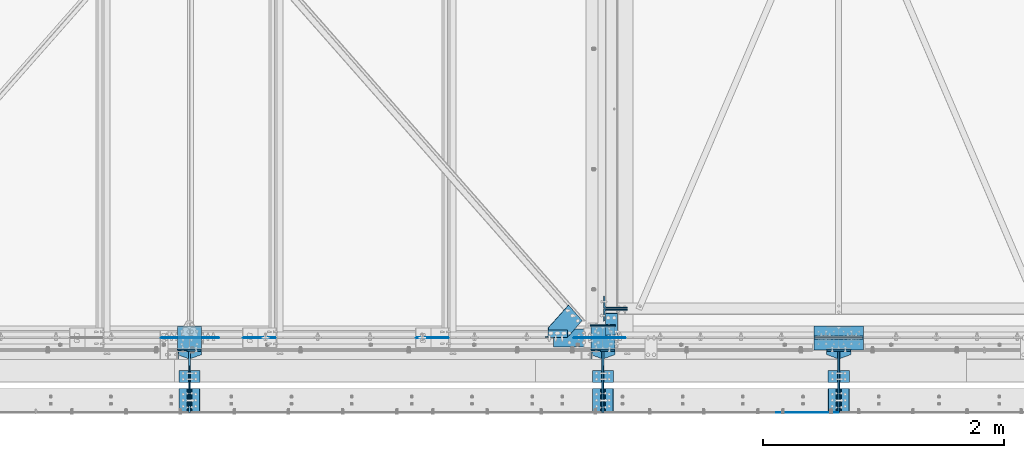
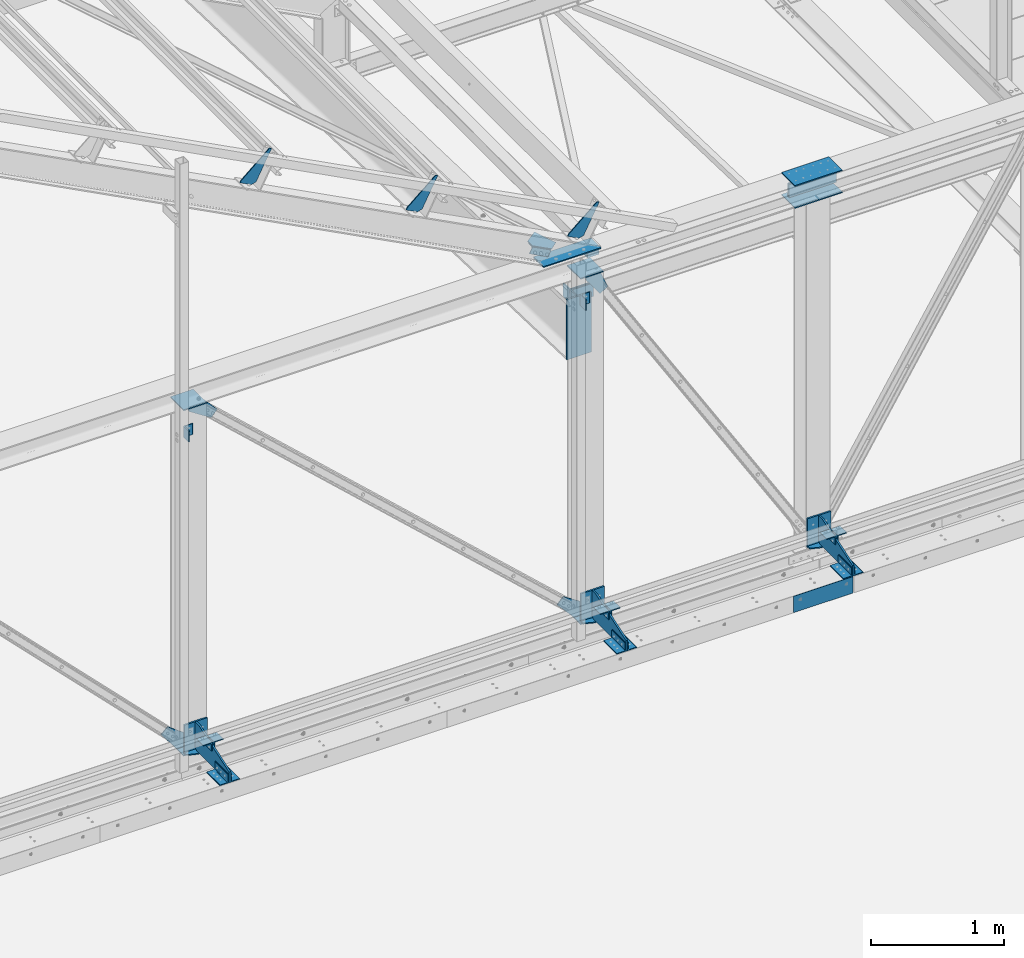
# One storey, part 84 of 362: 43 beams, 3 members, 34 elements without a shape of their own.
"""IFC2X3 building model written with IfcOpenShell, lengths in millimetres."""

from ifc_helpers import new_model, si_unit, frame, origin_with_axes, origin_2d_with_axis, place, context, subcontext, project, spatial, polyline, rectangle, l_section, outline, extrude, clip, halfspace, material, type_object, element, aggregate, save


model = new_model("IFC2X3")

# Units and contexts
model_context = context("Model", 3, precision=1e-05, world=origin_with_axes())
body_context = subcontext(model_context, "Body", "Model", "MODEL_VIEW")
ifc_project = project(units=[si_unit("LENGTHUNIT", "METRE", prefix="MILLI"), si_unit("AREAUNIT", "SQUARE_METRE"), si_unit("VOLUMEUNIT", "CUBIC_METRE"), si_unit("MASSUNIT", "GRAM", prefix="KILO"), si_unit("TIMEUNIT", "SECOND"), si_unit("PLANEANGLEUNIT", "RADIAN"), si_unit("SOLIDANGLEUNIT", "STERADIAN"), si_unit("THERMODYNAMICTEMPERATUREUNIT", "DEGREE_CELSIUS"), si_unit("LUMINOUSINTENSITYUNIT", "LUMEN")], contexts=[model_context])

# Site, building, storey
site_placement = place(None, origin_with_axes())
site = spatial("IfcSite", under=ifc_project, at=site_placement, Name="Undefined", CompositionType="ELEMENT")
building_placement = place(site_placement, origin_with_axes())
building = spatial("IfcBuilding", under=site, at=building_placement, Name="Undefined", CompositionType="ELEMENT")
storey_placement = place(building_placement, origin_with_axes())
storey = spatial("IfcBuildingStorey", under=building, at=storey_placement, Name="Undefined", CompositionType="ELEMENT", Elevation=0.0)

# Assembly, beam
assembly_1_placement = place(storey_placement, origin_with_axes())
assembly_1 = element("IfcElementAssembly", 1, at=assembly_1_placement, inside=storey, Name="MONTANT", AssemblyPlace="NOTDEFINED", PredefinedType="NOTDEFINED")
ifc_material = material(Name="Undefined/S235-E24")
beam_type_1 = type_object("IfcBeamType", Name="TOLE8*138", PredefinedType="NOTDEFINED")
beam_1_placement = place(assembly_1_placement, frame((16014.9968916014, 0.0, 5200.00069263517), z_axis=(0.0, -1.0, 0.0), x_axis=(1.0, 0.0, 0.0)))
beam_1 = element("IfcBeam", 2, at=beam_1_placement, type_object=beam_type_1, material=ifc_material, Name="GOUSSET", ObjectType="TOLE8*138", context=body_context, shape_type="SweptSolid", body=[
    extrude(outline(polyline([(0.0, 0.0), (76.7515563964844, -3.31884703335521e-11), (96.7515747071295, 19.9999999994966), (96.7516021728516, 100.0), (-82.7663345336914, 231.440887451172), (-139.650405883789, 175.189651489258), (0.0, 0.0)])), frame((0.0, 0.0, -4.0), z_axis=(0.0, 0.0, 1.0), x_axis=(1.0, 0.0, 0.0)), (0.0, 0.0, 1.0), 8.0),
])

assembly_2_placement = place(storey_placement, origin_with_axes())
assembly_2 = element("IfcElementAssembly", 3, at=assembly_2_placement, inside=storey, Name="SUPPORT", AssemblyPlace="NOTDEFINED", PredefinedType="NOTDEFINED")
beam_type_2 = type_object("IfcBeamType", Name="PL150*4", PredefinedType="NOTDEFINED")
beam_2_placement = place(assembly_2_placement, frame((20989.9999820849, -622.0, 5154.99824538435), z_axis=(0.0, 0.0, 1.0), x_axis=(1.0, 0.0, 0.0)))
beam_2 = element("IfcBeam", 4, at=beam_2_placement, type_object=beam_type_2, material=ifc_material, Name="SUPPORT", ObjectType="PL150*4", context=body_context, shape_type="SweptSolid", body=[
    extrude(rectangle(XDim=4.0, YDim=150.0, at=origin_2d_with_axis()), frame((515.000011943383, 0.0, 0.0), z_axis=(-1.0, 0.0, 0.0), x_axis=(0.0, -1.0, 0.0)), (0.0, 0.0, 1.0), 515.0),
])
aggregate(assembly_2, [beam_2])

assembly_3_placement = place(storey_placement, origin_with_axes())
assembly_3 = element("IfcElementAssembly", 5, at=assembly_3_placement, inside=storey, Name="MONTANT", AssemblyPlace="NOTDEFINED", PredefinedType="NOTDEFINED")
beam_type_3 = type_object("IfcBeamType", Name="PL10*200", PredefinedType="NOTDEFINED")
beam_3_placement = place(assembly_3_placement, frame((21304.9998196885, 0.0, 8354.99960117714), z_axis=(0.0, 1.0, 0.0), x_axis=(0.999999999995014, 0.0, -3.15800000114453e-06)))
beam_3 = element("IfcBeam", 6, at=beam_3_placement, type_object=beam_type_3, material=ifc_material, Name="PLATINE", ObjectType="PL10*200", context=body_context, shape_type="SweptSolid", body=[
    extrude(rectangle(XDim=10.0, YDim=200.0, at=origin_2d_with_axis()), frame((410.0, 0.0, 0.0), z_axis=(-1.0, 0.0, 0.0), x_axis=(0.0, -1.0, 0.0)), (0.0, 0.0, 1.0), 410.0),
])
aggregate(assembly_3, [beam_3])

assembly_4_placement = place(storey_placement, origin_with_axes())
assembly_4 = element("IfcElementAssembly", 7, at=assembly_4_placement, inside=storey, AssemblyPlace="NOTDEFINED", PredefinedType="NOTDEFINED")
beam_4_placement = place(assembly_4_placement, frame((21304.9998196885, 0.0, 8555.00039882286), z_axis=(0.0, 1.0, 0.0), x_axis=(0.999999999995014, 0.0, 3.15800000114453e-06)))
beam_4 = element("IfcBeam", 8, at=beam_4_placement, type_object=beam_type_3, material=ifc_material, Name="ECLISSE", ObjectType="PL10*200", context=body_context, shape_type="SweptSolid", body=[
    extrude(rectangle(XDim=10.0, YDim=200.0, at=origin_2d_with_axis()), frame((410.0, 0.0, 0.0), z_axis=(-1.0, 0.0, 0.0), x_axis=(0.0, -1.0, 0.0)), (0.0, 0.0, 1.0), 410.0),
])
aggregate(assembly_4, [beam_4])

# Assembly, beams
assembly_5_placement = place(storey_placement, origin_with_axes())
assembly_5 = element("IfcElementAssembly", 9, at=assembly_5_placement, inside=storey, Name="MONTANT", AssemblyPlace="NOTDEFINED", PredefinedType="NOTDEFINED")
beam_5_placement = place(assembly_5_placement, frame((19449.9982817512, 0.0, 8354.99930736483), z_axis=(0.0, 1.0, 0.0), x_axis=(1.0, 0.0, 0.0)))
beam_5 = element("IfcBeam", 10, at=beam_5_placement, type_object=beam_type_3, material=ifc_material, Name="PLATINE", ObjectType="PL10*200", context=body_context, shape_type="SweptSolid", body=[
    extrude(rectangle(XDim=10.0, YDim=200.0, at=origin_2d_with_axis()), frame((200.003108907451, 1.3235095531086e-21, 0.0), z_axis=(-1.0, 0.0, 0.0), x_axis=(0.0, -1.0, 0.0)), (0.0, 0.0, 1.0), 200.0),
])
beam_6_placement = place(assembly_5_placement, frame((19449.9982812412, 0.0, 5195.00069263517), z_axis=(0.0, 1.0, 0.0), x_axis=(1.0, 0.0, 0.0)))
beam_6 = element("IfcBeam", 11, at=beam_6_placement, type_object=beam_type_3, material=ifc_material, Name="PLATINE", ObjectType="PL10*200", context=body_context, shape_type="SweptSolid", body=[
    extrude(rectangle(XDim=10.0, YDim=200.0, at=origin_2d_with_axis()), frame((200.003108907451, 1.3235095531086e-21, 0.0), z_axis=(-1.0, 0.0, 0.0), x_axis=(0.0, -1.0, 0.0)), (0.0, 0.0, 1.0), 200.0),
])

# Beam
beam_7_placement = place(assembly_1_placement, frame((16014.9968918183, 0.0, 8354.99930736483), z_axis=(0.0, 1.0, 0.0), x_axis=(1.0, 0.0, 0.0)))
beam_7 = element("IfcBeam", 12, at=beam_7_placement, type_object=beam_type_3, material=ifc_material, Name="PLATINE", ObjectType="PL10*200", context=body_context, shape_type="SweptSolid", body=[
    extrude(rectangle(XDim=10.0, YDim=200.0, at=origin_2d_with_axis()), frame((200.003108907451, 1.3235095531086e-21, 0.0), z_axis=(-1.0, 0.0, 0.0), x_axis=(0.0, -1.0, 0.0)), (0.0, 0.0, 1.0), 200.0),
])

beam_8_placement = place(assembly_1_placement, frame((16014.9968913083, 0.0, 5195.00069263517), z_axis=(0.0, 1.0, 0.0), x_axis=(1.0, 0.0, 0.0)))
beam_8 = element("IfcBeam", 13, at=beam_8_placement, type_object=beam_type_3, material=ifc_material, Name="PLATINE", ObjectType="PL10*200", context=body_context, shape_type="SweptSolid", body=[
    extrude(rectangle(XDim=10.0, YDim=200.0, at=origin_2d_with_axis()), frame((200.003108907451, 1.3235095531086e-21, 0.0), z_axis=(-1.0, 0.0, 0.0), x_axis=(0.0, -1.0, 0.0)), (0.0, 0.0, 1.0), 200.0),
])

# Assembly, beam
assembly_6_placement = place(storey_placement, origin_with_axes())
assembly_6 = element("IfcElementAssembly", 14, at=assembly_6_placement, inside=storey, AssemblyPlace="NOTDEFINED", PredefinedType="NOTDEFINED")
beam_type_4 = type_object("IfcBeamType", Name="L80*8", PredefinedType="NOTDEFINED")
beam_9_placement = place(assembly_6_placement, frame((21557.4921660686, -270.0, 5409.99824538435), z_axis=(0.0, 0.0, -1.0), x_axis=(0.0, -1.0, 0.0)))
beam_9 = element("IfcBeam", 15, at=beam_9_placement, type_object=beam_type_4, material=ifc_material, Name="ATTACHE", ObjectType="L80*8", context=body_context, shape_type="SweptSolid", body=[
    extrude(l_section(Depth=80.0, Width=80.0, Thickness=8.0, FilletRadius=10.0, EdgeRadius=5.0, at=origin_2d_with_axis()), frame((99.9999999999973, -1.63709046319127e-11, 7.73070496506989e-12), z_axis=(-1.0, 0.0, 0.0), x_axis=(0.0, -1.0, 0.0)), (0.0, 0.0, 1.0), 100.0),
])
aggregate(assembly_6, [beam_9])

assembly_7_placement = place(storey_placement, origin_with_axes())
assembly_7 = element("IfcElementAssembly", 16, at=assembly_7_placement, inside=storey, AssemblyPlace="NOTDEFINED", PredefinedType="NOTDEFINED")
beam_10_placement = place(assembly_7_placement, frame((21462.4999984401, -370.0, 5409.99824538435), z_axis=(0.0, 0.0, -1.0), x_axis=(0.0, 1.0, 0.0)))
beam_10 = element("IfcBeam", 17, at=beam_10_placement, type_object=beam_type_4, material=ifc_material, Name="ATTACHE", ObjectType="L80*8", context=body_context, shape_type="SweptSolid", body=[
    extrude(l_section(Depth=80.0, Width=80.0, Thickness=8.0, FilletRadius=10.0, EdgeRadius=5.0, at=origin_2d_with_axis()), frame((99.9999999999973, -1.63709046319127e-11, 7.73070496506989e-12), z_axis=(-1.0, 0.0, 0.0), x_axis=(0.0, -1.0, 0.0)), (0.0, 0.0, 1.0), 100.0),
])
aggregate(assembly_7, [beam_10])

assembly_8_placement = place(storey_placement, origin_with_axes())
assembly_8 = element("IfcElementAssembly", 18, at=assembly_8_placement, inside=storey, AssemblyPlace="NOTDEFINED", PredefinedType="NOTDEFINED")
beam_11_placement = place(assembly_8_placement, frame((19597.4921676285, -270.0, 5409.99824538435), z_axis=(0.0, 0.0, -1.0), x_axis=(0.0, -1.0, 0.0)))
beam_11 = element("IfcBeam", 19, at=beam_11_placement, type_object=beam_type_4, material=ifc_material, Name="ATTACHE", ObjectType="L80*8", context=body_context, shape_type="SweptSolid", body=[
    extrude(l_section(Depth=80.0, Width=80.0, Thickness=8.0, FilletRadius=10.0, EdgeRadius=5.0, at=origin_2d_with_axis()), frame((99.9999999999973, -1.63709046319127e-11, 7.73070496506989e-12), z_axis=(-1.0, 0.0, 0.0), x_axis=(0.0, -1.0, 0.0)), (0.0, 0.0, 1.0), 100.0),
])
aggregate(assembly_8, [beam_11])

assembly_9_placement = place(storey_placement, origin_with_axes())
assembly_9 = element("IfcElementAssembly", 20, at=assembly_9_placement, inside=storey, AssemblyPlace="NOTDEFINED", PredefinedType="NOTDEFINED")
beam_12_placement = place(assembly_9_placement, frame((19502.5, -370.0, 5409.99824538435), z_axis=(0.0, 0.0, -1.0), x_axis=(0.0, 1.0, 0.0)))
beam_12 = element("IfcBeam", 21, at=beam_12_placement, type_object=beam_type_4, material=ifc_material, Name="ATTACHE", ObjectType="L80*8", context=body_context, shape_type="SweptSolid", body=[
    extrude(l_section(Depth=80.0, Width=80.0, Thickness=8.0, FilletRadius=10.0, EdgeRadius=5.0, at=origin_2d_with_axis()), frame((99.9999999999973, -1.63709046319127e-11, 7.73070496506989e-12), z_axis=(-1.0, 0.0, 0.0), x_axis=(0.0, -1.0, 0.0)), (0.0, 0.0, 1.0), 100.0),
])
aggregate(assembly_9, [beam_12])

assembly_10_placement = place(storey_placement, origin_with_axes())
assembly_10 = element("IfcElementAssembly", 22, at=assembly_10_placement, inside=storey, AssemblyPlace="NOTDEFINED", PredefinedType="NOTDEFINED")
beam_13_placement = place(assembly_10_placement, frame((16162.490751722, -270.0, 5409.99824538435), z_axis=(0.0, 0.0, -1.0), x_axis=(0.0, -1.0, 0.0)))
beam_13 = element("IfcBeam", 23, at=beam_13_placement, type_object=beam_type_4, material=ifc_material, Name="ATTACHE", ObjectType="L80*8", context=body_context, shape_type="SweptSolid", body=[
    extrude(l_section(Depth=80.0, Width=80.0, Thickness=8.0, FilletRadius=10.0, EdgeRadius=5.0, at=origin_2d_with_axis()), frame((99.9999999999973, -1.63709046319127e-11, 7.73070496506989e-12), z_axis=(-1.0, 0.0, 0.0), x_axis=(0.0, -1.0, 0.0)), (0.0, 0.0, 1.0), 100.0),
])
aggregate(assembly_10, [beam_13])

assembly_11_placement = place(storey_placement, origin_with_axes())
assembly_11 = element("IfcElementAssembly", 24, at=assembly_11_placement, inside=storey, AssemblyPlace="NOTDEFINED", PredefinedType="NOTDEFINED")
beam_14_placement = place(assembly_11_placement, frame((16067.4985840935, -370.0, 5409.99824538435), z_axis=(0.0, 0.0, -1.0), x_axis=(0.0, 1.0, 0.0)))
beam_14 = element("IfcBeam", 25, at=beam_14_placement, type_object=beam_type_4, material=ifc_material, Name="ATTACHE", ObjectType="L80*8", context=body_context, shape_type="SweptSolid", body=[
    extrude(l_section(Depth=80.0, Width=80.0, Thickness=8.0, FilletRadius=10.0, EdgeRadius=5.0, at=origin_2d_with_axis()), frame((99.9999999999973, -1.63709046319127e-11, 7.73070496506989e-12), z_axis=(-1.0, 0.0, 0.0), x_axis=(0.0, -1.0, 0.0)), (0.0, 0.0, 1.0), 100.0),
])
aggregate(assembly_11, [beam_14])

assembly_12_placement = place(storey_placement, origin_with_axes())
assembly_12 = element("IfcElementAssembly", 26, at=assembly_12_placement, inside=storey, AssemblyPlace="NOTDEFINED", PredefinedType="NOTDEFINED")
beam_15_placement = place(assembly_12_placement, frame((21557.4921660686, -620.0, 5269.99824538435), z_axis=(0.0, 0.0, 1.0), x_axis=(0.0, 1.0, 0.0)))
beam_15 = element("IfcBeam", 27, at=beam_15_placement, type_object=beam_type_4, material=ifc_material, Name="ATTACHE", ObjectType="L80*8", context=body_context, shape_type="SweptSolid", body=[
    extrude(l_section(Depth=80.0, Width=80.0, Thickness=8.0, FilletRadius=10.0, EdgeRadius=5.0, at=origin_2d_with_axis()), frame((200.0, 0.0, 0.0), z_axis=(-1.0, 0.0, 0.0), x_axis=(0.0, -1.0, 0.0)), (0.0, 0.0, 1.0), 200.0),
])
aggregate(assembly_12, [beam_15])

assembly_13_placement = place(storey_placement, origin_with_axes())
assembly_13 = element("IfcElementAssembly", 28, at=assembly_13_placement, inside=storey, AssemblyPlace="NOTDEFINED", PredefinedType="NOTDEFINED")
beam_16_placement = place(assembly_13_placement, frame((21462.4999984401, -420.0, 5269.99824538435), z_axis=(0.0, 0.0, 1.0), x_axis=(0.0, -1.0, 0.0)))
beam_16 = element("IfcBeam", 29, at=beam_16_placement, type_object=beam_type_4, material=ifc_material, Name="ATTACHE", ObjectType="L80*8", context=body_context, shape_type="SweptSolid", body=[
    extrude(l_section(Depth=80.0, Width=80.0, Thickness=8.0, FilletRadius=10.0, EdgeRadius=5.0, at=origin_2d_with_axis()), frame((200.0, 0.0, 0.0), z_axis=(-1.0, 0.0, 0.0), x_axis=(0.0, -1.0, 0.0)), (0.0, 0.0, 1.0), 200.0),
])
aggregate(assembly_13, [beam_16])

assembly_14_placement = place(storey_placement, origin_with_axes())
assembly_14 = element("IfcElementAssembly", 30, at=assembly_14_placement, inside=storey, AssemblyPlace="NOTDEFINED", PredefinedType="NOTDEFINED")
beam_17_placement = place(assembly_14_placement, frame((19597.4921676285, -620.0, 5269.99824538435), z_axis=(0.0, 0.0, 1.0), x_axis=(0.0, 1.0, 0.0)))
beam_17 = element("IfcBeam", 31, at=beam_17_placement, type_object=beam_type_4, material=ifc_material, Name="ATTACHE", ObjectType="L80*8", context=body_context, shape_type="SweptSolid", body=[
    extrude(l_section(Depth=80.0, Width=80.0, Thickness=8.0, FilletRadius=10.0, EdgeRadius=5.0, at=origin_2d_with_axis()), frame((200.0, 0.0, 0.0), z_axis=(-1.0, 0.0, 0.0), x_axis=(0.0, -1.0, 0.0)), (0.0, 0.0, 1.0), 200.0),
])
aggregate(assembly_14, [beam_17])

assembly_15_placement = place(storey_placement, origin_with_axes())
assembly_15 = element("IfcElementAssembly", 32, at=assembly_15_placement, inside=storey, AssemblyPlace="NOTDEFINED", PredefinedType="NOTDEFINED")
beam_18_placement = place(assembly_15_placement, frame((19502.5, -420.0, 5269.99824538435), z_axis=(0.0, 0.0, 1.0), x_axis=(0.0, -1.0, 0.0)))
beam_18 = element("IfcBeam", 33, at=beam_18_placement, type_object=beam_type_4, material=ifc_material, Name="ATTACHE", ObjectType="L80*8", context=body_context, shape_type="SweptSolid", body=[
    extrude(l_section(Depth=80.0, Width=80.0, Thickness=8.0, FilletRadius=10.0, EdgeRadius=5.0, at=origin_2d_with_axis()), frame((200.0, 0.0, 0.0), z_axis=(-1.0, 0.0, 0.0), x_axis=(0.0, -1.0, 0.0)), (0.0, 0.0, 1.0), 200.0),
])
aggregate(assembly_15, [beam_18])

assembly_16_placement = place(storey_placement, origin_with_axes())
assembly_16 = element("IfcElementAssembly", 34, at=assembly_16_placement, inside=storey, AssemblyPlace="NOTDEFINED", PredefinedType="NOTDEFINED")
beam_19_placement = place(assembly_16_placement, frame((16162.490751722, -620.0, 5269.99824538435), z_axis=(0.0, 0.0, 1.0), x_axis=(0.0, 1.0, 0.0)))
beam_19 = element("IfcBeam", 35, at=beam_19_placement, type_object=beam_type_4, material=ifc_material, Name="ATTACHE", ObjectType="L80*8", context=body_context, shape_type="SweptSolid", body=[
    extrude(l_section(Depth=80.0, Width=80.0, Thickness=8.0, FilletRadius=10.0, EdgeRadius=5.0, at=origin_2d_with_axis()), frame((200.0, 0.0, 0.0), z_axis=(-1.0, 0.0, 0.0), x_axis=(0.0, -1.0, 0.0)), (0.0, 0.0, 1.0), 200.0),
])
aggregate(assembly_16, [beam_19])

assembly_17_placement = place(storey_placement, origin_with_axes())
assembly_17 = element("IfcElementAssembly", 36, at=assembly_17_placement, inside=storey, AssemblyPlace="NOTDEFINED", PredefinedType="NOTDEFINED")
beam_20_placement = place(assembly_17_placement, frame((16067.4985840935, -420.0, 5269.99824538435), z_axis=(0.0, 0.0, 1.0), x_axis=(0.0, -1.0, 0.0)))
beam_20 = element("IfcBeam", 37, at=beam_20_placement, type_object=beam_type_4, material=ifc_material, Name="ATTACHE", ObjectType="L80*8", context=body_context, shape_type="SweptSolid", body=[
    extrude(l_section(Depth=80.0, Width=80.0, Thickness=8.0, FilletRadius=10.0, EdgeRadius=5.0, at=origin_2d_with_axis()), frame((200.0, 0.0, 0.0), z_axis=(-1.0, 0.0, 0.0), x_axis=(0.0, -1.0, 0.0)), (0.0, 0.0, 1.0), 200.0),
])
aggregate(assembly_17, [beam_20])

assembly_18_placement = place(storey_placement, origin_with_axes())
assembly_18 = element("IfcElementAssembly", 38, at=assembly_18_placement, inside=storey, AssemblyPlace="NOTDEFINED", PredefinedType="NOTDEFINED")
beam_21_placement = place(assembly_18_placement, frame((19489.9999999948, -134.999999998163, 8210.00066229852), z_axis=(1.0, 0.0, 0.0), x_axis=(0.0, 0.0, -1.0)))
beam_21 = element("IfcBeam", 39, at=beam_21_placement, type_object=beam_type_4, material=ifc_material, Name="ATTACHE", ObjectType="L80*8", context=body_context, shape_type="SweptSolid", body=[
    extrude(l_section(Depth=80.0, Width=80.0, Thickness=8.0, FilletRadius=10.0, EdgeRadius=5.0, at=origin_2d_with_axis()), frame((99.9999999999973, -1.63709046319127e-11, 7.73070496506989e-12), z_axis=(-1.0, 0.0, 0.0), x_axis=(0.0, -1.0, 0.0)), (0.0, 0.0, 1.0), 100.0),
])
aggregate(assembly_18, [beam_21])

assembly_19_placement = place(storey_placement, origin_with_axes())
assembly_19 = element("IfcElementAssembly", 40, at=assembly_19_placement, inside=storey, AssemblyPlace="NOTDEFINED", PredefinedType="NOTDEFINED")
beam_22_placement = place(assembly_19_placement, frame((16054.9998811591, -135.000000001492, 8210.00066228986), z_axis=(1.0, 0.0, 0.0), x_axis=(0.0, 0.0, -1.0)))
beam_22 = element("IfcBeam", 41, at=beam_22_placement, type_object=beam_type_4, material=ifc_material, Name="ATTACHE", ObjectType="L80*8", context=body_context, shape_type="SweptSolid", body=[
    extrude(l_section(Depth=80.0, Width=80.0, Thickness=8.0, FilletRadius=10.0, EdgeRadius=5.0, at=origin_2d_with_axis()), frame((99.9999999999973, -1.63709046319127e-11, 7.73070496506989e-12), z_axis=(-1.0, 0.0, 0.0), x_axis=(0.0, -1.0, 0.0)), (0.0, 0.0, 1.0), 100.0),
])
aggregate(assembly_19, [beam_22])

assembly_20_placement = place(storey_placement, origin_with_axes())
assembly_20 = element("IfcElementAssembly", 42, at=assembly_20_placement, inside=storey, Name="CONSOLE", AssemblyPlace="NOTDEFINED", PredefinedType="NOTDEFINED")
beam_type_5 = type_object("IfcBeamType", Name="TOLE10*60", PredefinedType="NOTDEFINED")
beam_23_placement = place(assembly_20_placement, frame((16014.9985840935, -110.0, 5224.99824534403), z_axis=(0.0, 0.0, 1.0), x_axis=(0.0, -1.0, 0.0)))
beam_23 = element("IfcBeam", 43, at=beam_23_placement, type_object=beam_type_5, material=ifc_material, Name="RAIDISSEUR", ObjectType="TOLE10*60", context=body_context, shape_type="SweptSolid", body=[
    extrude(outline(polyline([(0.0, 0.0), (30.0, 0.0), (60.0, 82.5), (60.0, 117.5), (30.0, 200.0), (0.0, 200.0), (0.0, 0.0)])), frame((0.0, 0.0, -5.0), z_axis=(0.0, 0.0, 1.0), x_axis=(1.0, 0.0, 0.0)), (0.0, 0.0, 1.0), 10.0),
])

assembly_21_placement = place(storey_placement, origin_with_axes())
assembly_21 = element("IfcElementAssembly", 44, at=assembly_21_placement, inside=storey, Name="CONSOLE", AssemblyPlace="NOTDEFINED", PredefinedType="NOTDEFINED")
beam_24_placement = place(assembly_21_placement, frame((19450.0, -110.0, 5224.99824534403), z_axis=(0.0, 0.0, 1.0), x_axis=(0.0, -1.0, 0.0)))
beam_24 = element("IfcBeam", 45, at=beam_24_placement, type_object=beam_type_5, material=ifc_material, Name="RAIDISSEUR", ObjectType="TOLE10*60", context=body_context, shape_type="SweptSolid", body=[
    extrude(outline(polyline([(0.0, 0.0), (30.0, 0.0), (60.0, 82.5), (60.0, 117.5), (30.0, 200.0), (0.0, 200.0), (0.0, 0.0)])), frame((0.0, 0.0, -5.0), z_axis=(0.0, 0.0, 1.0), x_axis=(1.0, 0.0, 0.0)), (0.0, 0.0, 1.0), 10.0),
])

# Assembly, beams
assembly_22_placement = place(storey_placement, origin_with_axes())
assembly_22 = element("IfcElementAssembly", 46, at=assembly_22_placement, inside=storey, Name="CONSOLE", AssemblyPlace="NOTDEFINED", PredefinedType="NOTDEFINED")
beam_25_placement = place(assembly_22_placement, frame((21409.9999984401, -110.0, 5224.99824534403), z_axis=(0.0, 0.0, 1.0), x_axis=(0.0, -1.0, 0.0)))
beam_25 = element("IfcBeam", 47, at=beam_25_placement, type_object=beam_type_5, material=ifc_material, Name="RAIDISSEUR", ObjectType="TOLE10*60", context=body_context, shape_type="SweptSolid", body=[
    extrude(outline(polyline([(0.0, 0.0), (30.0, 0.0), (60.0, 82.5), (60.0, 117.5), (30.0, 200.0), (0.0, 200.0), (0.0, 0.0)])), frame((0.0, 0.0, -5.0), z_axis=(0.0, 0.0, 1.0), x_axis=(1.0, 0.0, 0.0)), (0.0, 0.0, 1.0), 10.0),
])
beam_type_6 = type_object("IfcBeamType", Name="PL15*200", PredefinedType="NOTDEFINED")
beam_26_placement = place(assembly_22_placement, frame((21509.9999984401, -102.5, 5479.99824538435), z_axis=(1.0, 0.0, 0.0), x_axis=(0.0, 0.0, -1.0)))
beam_26 = element("IfcBeam", 48, at=beam_26_placement, type_object=beam_type_6, material=ifc_material, Name="PLATINE", ObjectType="PL15*200", context=body_context, shape_type="SweptSolid", body=[
    extrude(rectangle(XDim=15.0, YDim=200.0, at=origin_2d_with_axis()), frame((265.000000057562, 0.0, 0.0), z_axis=(-1.0, 0.0, 0.0), x_axis=(0.0, -1.0, 0.0)), (0.0, 0.0, 1.0), 265.0),
])

# Beam
beam_27_placement = place(assembly_21_placement, frame((19550.0, -102.5, 5479.99824538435), z_axis=(1.0, 0.0, 0.0), x_axis=(0.0, 0.0, -1.0)))
beam_27 = element("IfcBeam", 49, at=beam_27_placement, type_object=beam_type_6, material=ifc_material, Name="PLATINE", ObjectType="PL15*200", context=body_context, shape_type="SweptSolid", body=[
    extrude(rectangle(XDim=15.0, YDim=200.0, at=origin_2d_with_axis()), frame((265.000000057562, 0.0, 0.0), z_axis=(-1.0, 0.0, 0.0), x_axis=(0.0, -1.0, 0.0)), (0.0, 0.0, 1.0), 265.0),
])

beam_28_placement = place(assembly_20_placement, frame((16114.9985840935, -102.5, 5479.99824538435), z_axis=(1.0, 0.0, 0.0), x_axis=(0.0, 0.0, -1.0)))
beam_28 = element("IfcBeam", 50, at=beam_28_placement, type_object=beam_type_6, material=ifc_material, Name="PLATINE", ObjectType="PL15*200", context=body_context, shape_type="SweptSolid", body=[
    extrude(rectangle(XDim=15.0, YDim=200.0, at=origin_2d_with_axis()), frame((265.000000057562, 0.0, 0.0), z_axis=(-1.0, 0.0, 0.0), x_axis=(0.0, -1.0, 0.0)), (0.0, 0.0, 1.0), 265.0),
])

beam_type_7 = type_object("IfcBeamType", Name="TOLE15*250", PredefinedType="NOTDEFINED")
beam_29_placement = place(assembly_22_placement, frame((21509.9999984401, -620.0, 5229.99824538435), z_axis=(-1.0, 0.0, 0.0), x_axis=(0.0, 0.0, 1.0)))
beam_29 = element("IfcBeam", 51, at=beam_29_placement, type_object=beam_type_7, material=ifc_material, Name="CONSOLE", ObjectType="TOLE15*250", context=body_context, shape_type="SweptSolid", body=[
    extrude(outline(polyline([(0.0, 0.0), (100.0, 0.0), (250.0, 450.0), (250.0, 510.0), (19.9999999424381, 510.0), (-5.53045894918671e-08, 490.0), (0.0, 0.0)])), frame((0.0, 0.0, -7.5), z_axis=(0.0, 0.0, 1.0), x_axis=(1.0, 0.0, 0.0)), (0.0, 0.0, 1.0), 15.0),
])

aggregate(assembly_22, [beam_25, beam_26, beam_29])

beam_30_placement = place(assembly_21_placement, frame((19550.0, -620.0, 5229.99824538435), z_axis=(-1.0, 0.0, 0.0), x_axis=(0.0, 0.0, 1.0)))
beam_30 = element("IfcBeam", 52, at=beam_30_placement, type_object=beam_type_7, material=ifc_material, Name="CONSOLE", ObjectType="TOLE15*250", context=body_context, shape_type="SweptSolid", body=[
    extrude(outline(polyline([(0.0, 0.0), (100.0, 0.0), (250.0, 450.0), (250.0, 510.0), (19.9999999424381, 510.0), (-5.53045894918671e-08, 490.0), (0.0, 0.0)])), frame((0.0, 0.0, -7.5), z_axis=(0.0, 0.0, 1.0), x_axis=(1.0, 0.0, 0.0)), (0.0, 0.0, 1.0), 15.0),
])

aggregate(assembly_21, [beam_24, beam_27, beam_30])

beam_31_placement = place(assembly_20_placement, frame((16114.9985840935, -620.0, 5229.99824538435), z_axis=(-1.0, 0.0, 0.0), x_axis=(0.0, 0.0, 1.0)))
beam_31 = element("IfcBeam", 53, at=beam_31_placement, type_object=beam_type_7, material=ifc_material, Name="CONSOLE", ObjectType="TOLE15*250", context=body_context, shape_type="SweptSolid", body=[
    extrude(outline(polyline([(0.0, 0.0), (100.0, 0.0), (250.0, 450.0), (250.0, 510.0), (19.9999999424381, 510.0), (-5.53045894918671e-08, 490.0), (0.0, 0.0)])), frame((0.0, 0.0, -7.5), z_axis=(0.0, 0.0, 1.0), x_axis=(1.0, 0.0, 0.0)), (0.0, 0.0, 1.0), 15.0),
])

aggregate(assembly_20, [beam_23, beam_28, beam_31])

# Assembly, member
assembly_23_placement = place(storey_placement, origin_with_axes())
assembly_23 = element("IfcElementAssembly", 54, at=assembly_23_placement, inside=storey, AssemblyPlace="NOTDEFINED", PredefinedType="NOTDEFINED")
member_type_1 = type_object("IfcMemberType", Name="L60*6", PredefinedType="NOTDEFINED")
member_1_placement = place(assembly_23_placement, frame((19240.9060810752, 33.499997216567, 8598.41231176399), z_axis=(0.0, 1.0, 0.0), x_axis=(-0.886081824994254, 0.0, 0.463528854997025)))
member_1 = element("IfcMember", 55, at=member_1_placement, type_object=member_type_1, material=ifc_material, Name="ATTACHE", ObjectType="L60*6", context=body_context, shape_type="SweptSolid", body=[
    extrude(l_section(Depth=60.0, Width=60.0, Thickness=6.0, FilletRadius=8.0, EdgeRadius=4.0, at=origin_2d_with_axis()), frame((180.0, 0.0, 0.0), z_axis=(-1.0, 0.0, 0.0), x_axis=(0.0, -1.0, 0.0)), (0.0, 0.0, 1.0), 180.0),
])
aggregate(assembly_23, [member_1])

# Assembly, beam
assembly_24_placement = place(storey_placement, origin_with_axes())
assembly_24 = element("IfcElementAssembly", 56, at=assembly_24_placement, inside=storey, Name="PANNE SHED", AssemblyPlace="NOTDEFINED", PredefinedType="NOTDEFINED")
beam_type_8 = type_object("IfcBeamType", Name="TOLE8*140", PredefinedType="NOTDEFINED")
beam_32_placement = place(assembly_24_placement, frame((19667.0878027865, 0.0, 8923.94974997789), z_axis=(0.0, -1.0, 0.0), x_axis=(-0.886081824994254, 0.0, 0.463528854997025)))
beam_32 = element("IfcBeam", 57, at=beam_32_placement, type_object=beam_type_8, material=ifc_material, Name="RAIDISSEUR", ObjectType="TOLE8*140", context=body_context, shape_type="SweptSolid", body=[
    extrude(outline(polyline([(0.0, 0.0), (19.9999999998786, -3.63797880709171e-12), (140.000030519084, 299.999999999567), (140.000030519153, 319.999999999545), (30.0000147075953, 319.999999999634), (0.0, 290.0), (0.0, 0.0)])), frame((0.0, 0.0, -4.0), z_axis=(0.0, 0.0, 1.0), x_axis=(1.0, 0.0, 0.0)), (0.0, 0.0, 1.0), 8.0),
])
aggregate(assembly_24, [beam_32])

assembly_25_placement = place(storey_placement, origin_with_axes())
assembly_25 = element("IfcElementAssembly", 58, at=assembly_25_placement, inside=storey, Name="PANNE SHED", AssemblyPlace="NOTDEFINED", PredefinedType="NOTDEFINED")
beam_33_placement = place(assembly_25_placement, frame((18269.6614730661, 0.0, 9654.97325100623), z_axis=(0.0, -1.0, 0.0), x_axis=(-0.886081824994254, 0.0, 0.463528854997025)))
beam_33 = element("IfcBeam", 59, at=beam_33_placement, type_object=beam_type_8, material=ifc_material, Name="RAIDISSEUR", ObjectType="TOLE8*140", context=body_context, shape_type="SweptSolid", body=[
    extrude(outline(polyline([(0.0, 0.0), (19.9999999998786, -3.63797880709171e-12), (140.000030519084, 299.999999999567), (140.000030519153, 319.999999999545), (30.0000147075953, 319.999999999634), (0.0, 290.0), (0.0, 0.0)])), frame((0.0, 0.0, -4.0), z_axis=(0.0, 0.0, 1.0), x_axis=(1.0, 0.0, 0.0)), (0.0, 0.0, 1.0), 8.0),
])
aggregate(assembly_25, [beam_33])

assembly_26_placement = place(storey_placement, origin_with_axes())
assembly_26 = element("IfcElementAssembly", 60, at=assembly_26_placement, inside=storey, Name="PANNE SHED", AssemblyPlace="NOTDEFINED", PredefinedType="NOTDEFINED")
beam_34_placement = place(assembly_26_placement, frame((16832.361407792, 0.0, 10406.855553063), z_axis=(0.0, -1.0, 0.0), x_axis=(-0.886081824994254, 0.0, 0.463528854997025)))
beam_34 = element("IfcBeam", 61, at=beam_34_placement, type_object=beam_type_8, material=ifc_material, Name="RAIDISSEUR", ObjectType="TOLE8*140", context=body_context, shape_type="SweptSolid", body=[
    extrude(outline(polyline([(0.0, 0.0), (19.9999999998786, -3.63797880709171e-12), (140.000030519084, 299.999999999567), (140.000030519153, 319.999999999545), (30.0000147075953, 319.999999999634), (0.0, 290.0), (0.0, 0.0)])), frame((0.0, 0.0, -4.0), z_axis=(0.0, 0.0, 1.0), x_axis=(1.0, 0.0, 0.0)), (0.0, 0.0, 1.0), 8.0),
])
aggregate(assembly_26, [beam_34])

# Assembly, member
assembly_27_placement = place(storey_placement, origin_with_axes())
assembly_27 = element("IfcElementAssembly", 62, at=assembly_27_placement, inside=storey, AssemblyPlace="NOTDEFINED", PredefinedType="NOTDEFINED")
member_type_2 = type_object("IfcMemberType", Name="L200*100*10", PredefinedType="NOTDEFINED")
member_2_placement = place(assembly_27_placement, frame((19656.0000000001, 293.26862890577, 7890.70974897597), z_axis=(1.0, 0.0, 0.0), x_axis=(7.58071938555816e-11, 0.0314107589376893, 0.999506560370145)))
member_2 = element("IfcMember", 63, at=member_2_placement, type_object=member_type_2, material=ifc_material, Name="ATTACHE", ObjectType="L200*100*10", context=body_context, shape_type="SweptSolid", body=[
    extrude(l_section(Depth=200.0, Width=100.0, Thickness=10.0, FilletRadius=15.0, EdgeRadius=7.5, at=origin_2d_with_axis()), frame((120.0, 0.0, 0.0), z_axis=(-1.0, 0.0, 0.0), x_axis=(0.0, -1.0, 0.0)), (0.0, 0.0, 1.0), 120.0),
])
aggregate(assembly_27, [member_2])

assembly_28_placement = place(storey_placement, origin_with_axes())
assembly_28 = element("IfcElementAssembly", 64, at=assembly_28_placement, inside=storey, AssemblyPlace="NOTDEFINED", PredefinedType="NOTDEFINED")
member_3_placement = place(assembly_28_placement, frame((19656.0000000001, 191.089419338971, 8013.98015068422), z_axis=(1.0, 0.0, 0.0), x_axis=(-1.05403257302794e-09, -0.0314112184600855, -0.999506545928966)))
member_3 = element("IfcMember", 65, at=member_3_placement, type_object=member_type_2, material=ifc_material, Name="ATTACHE", ObjectType="L200*100*10", context=body_context, shape_type="SweptSolid", body=[
    extrude(l_section(Depth=200.0, Width=100.0, Thickness=10.0, FilletRadius=15.0, EdgeRadius=7.5, at=origin_2d_with_axis()), frame((120.0, 0.0, 0.0), z_axis=(-1.0, 0.0, 0.0), x_axis=(0.0, -1.0, 0.0)), (0.0, 0.0, 1.0), 120.0),
])
aggregate(assembly_28, [member_3])

# Assembly, beam
assembly_29_placement = place(storey_placement, origin_with_axes())
assembly_29 = element("IfcElementAssembly", 66, at=assembly_29_placement, inside=storey, AssemblyPlace="NOTDEFINED", PredefinedType="NOTDEFINED")
beam_type_9 = type_object("IfcBeamType", Name="L200*100*10", PredefinedType="NOTDEFINED")
beam_35_placement = place(assembly_29_placement, frame((19569.9999986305, 106.0, 8490.0), z_axis=(0.0, 1.0, 0.0), x_axis=(1.0, 0.0, 0.0)))
beam_35 = element("IfcBeam", 67, at=beam_35_placement, type_object=beam_type_9, material=ifc_material, Name="ATTACHE", ObjectType="L200*100*10", context=body_context, shape_type="Clipping", body=[
    clip(extrude(l_section(Depth=200.0, Width=100.0, Thickness=10.0, FilletRadius=15.0, EdgeRadius=7.5, at=origin_2d_with_axis()), frame((99.9999999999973, -1.63709046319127e-11, 7.73070496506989e-12), z_axis=(-1.0, 0.0, 0.0), x_axis=(0.0, -1.0, 0.0)), (0.0, 0.0, 1.0), 100.0), halfspace(frame((100.0, -20.0, -100.0), z_axis=(0.0, -1.0, 0.0), x_axis=(-1.0, 0.0, 0.0)), False)),
])
aggregate(assembly_29, [beam_35])

assembly_30_placement = place(storey_placement, origin_with_axes())
assembly_30 = element("IfcElementAssembly", 68, at=assembly_30_placement, inside=storey, Name="TRAVERSE", AssemblyPlace="NOTDEFINED", PredefinedType="NOTDEFINED")
beam_type_10 = type_object("IfcBeamType", Name="PL15*210", PredefinedType="NOTDEFINED")
beam_36_placement = place(assembly_30_placement, frame((19550.0, 102.5, 8046.54311074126), z_axis=(-1.0, 0.0, 0.0), x_axis=(0.0, 0.0, -1.0)))
beam_36 = element("IfcBeam", 69, at=beam_36_placement, type_object=beam_type_10, material=ifc_material, Name="PLATINE", ObjectType="PL15*210", context=body_context, shape_type="SweptSolid", body=[
    extrude(rectangle(XDim=15.0, YDim=210.0, at=origin_2d_with_axis()), frame((550.0, 0.0, 0.0), z_axis=(-1.0, 0.0, 0.0), x_axis=(0.0, -1.0, 0.0)), (0.0, 0.0, 1.0), 550.0),
])
aggregate(assembly_30, [beam_36])

assembly_31_placement = place(storey_placement, origin_with_axes())
assembly_31 = element("IfcElementAssembly", 70, at=assembly_31_placement, inside=storey, AssemblyPlace="NOTDEFINED", PredefinedType="NOTDEFINED")
beam_type_11 = type_object("IfcBeamType", Name="TOLE6*184", PredefinedType="NOTDEFINED")
beam_37_placement = place(assembly_31_placement, frame((19376.5667187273, 144.384161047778, 8564.68797075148), z_axis=(0.463528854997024, 6.99999093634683e-09, 0.886081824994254), x_axis=(-0.624617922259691, 0.70928572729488, 0.326750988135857)))
beam_37 = element("IfcBeam", 71, at=beam_37_placement, type_object=beam_type_11, material=ifc_material, Name="GOUSSET", ObjectType="TOLE6*184", context=body_context, shape_type="SweptSolid", body=[
    extrude(outline(polyline([(0.0, 0.0), (180.000000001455, -5.27506927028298e-10), (180.000000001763, 266.398742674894), (129.807098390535, 316.28277587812), (-4.12791108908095, 181.518493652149), (0.0, 0.0)])), frame((0.0, 0.0, -3.0), z_axis=(0.0, 0.0, 1.0), x_axis=(1.0, 0.0, 0.0)), (0.0, 0.0, 1.0), 6.0),
])
aggregate(assembly_31, [beam_37])

assembly_32_placement = place(storey_placement, origin_with_axes())
assembly_32 = element("IfcElementAssembly", 72, at=assembly_32_placement, inside=storey, Name="TRAVERSE SHED", AssemblyPlace="NOTDEFINED", PredefinedType="NOTDEFINED")
beam_type_12 = type_object("IfcBeamType", Name="PL10*500", PredefinedType="NOTDEFINED")
beam_38_placement = place(assembly_32_placement, frame((19391.9989824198, 74.9996843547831, 8554.99999999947), z_axis=(-1.0, 0.0, 0.0), x_axis=(0.0, -1.0, 0.0)))
beam_38 = element("IfcBeam", 73, at=beam_38_placement, type_object=beam_type_12, material=ifc_material, Name="PLATINE", ObjectType="PL10*500", context=body_context, shape_type="SweptSolid", body=[
    extrude(rectangle(XDim=10.0, YDim=500.0, at=origin_2d_with_axis()), frame((150.0, 0.0, 0.0), z_axis=(-1.0, 0.0, 0.0), x_axis=(0.0, -1.0, 0.0)), (0.0, 0.0, 1.0), 150.0),
])
aggregate(assembly_32, [beam_38])

assembly_33_placement = place(storey_placement, origin_with_axes())
assembly_33 = element("IfcElementAssembly", 74, at=assembly_33_placement, inside=storey, AssemblyPlace="NOTDEFINED", PredefinedType="NOTDEFINED")
beam_type_13 = type_object("IfcBeamType", Name="PL10*120", PredefinedType="NOTDEFINED")
beam_39_placement = place(assembly_33_placement, frame((21304.9998354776, 8.5, 8455.0), z_axis=(0.0, 0.0, -1.0), x_axis=(1.0, 0.0, 0.0)))
beam_39 = element("IfcBeam", 75, at=beam_39_placement, type_object=beam_type_13, material=ifc_material, Name="ECLISSE", ObjectType="PL10*120", context=body_context, shape_type="SweptSolid", body=[
    extrude(rectangle(XDim=10.0, YDim=120.0, at=origin_2d_with_axis()), frame((410.0, 0.0, 0.0), z_axis=(-1.0, 0.0, 0.0), x_axis=(0.0, -1.0, 0.0)), (0.0, 0.0, 1.0), 410.0),
])
aggregate(assembly_33, [beam_39])

assembly_34_placement = place(storey_placement, origin_with_axes())
assembly_34 = element("IfcElementAssembly", 76, at=assembly_34_placement, inside=storey, AssemblyPlace="NOTDEFINED", PredefinedType="NOTDEFINED")
beam_40_placement = place(assembly_34_placement, frame((21304.9998354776, -8.5, 8455.0), z_axis=(0.0, 0.0, -1.0), x_axis=(1.0, 0.0, 0.0)))
beam_40 = element("IfcBeam", 77, at=beam_40_placement, type_object=beam_type_13, material=ifc_material, Name="ECLISSE", ObjectType="PL10*120", context=body_context, shape_type="SweptSolid", body=[
    extrude(rectangle(XDim=10.0, YDim=120.0, at=origin_2d_with_axis()), frame((410.0, 0.0, 0.0), z_axis=(-1.0, 0.0, 0.0), x_axis=(0.0, -1.0, 0.0)), (0.0, 0.0, 1.0), 410.0),
])
aggregate(assembly_34, [beam_40])

# Beam
beam_type_14 = type_object("IfcBeamType", Name="TOLE8*127", PredefinedType="NOTDEFINED")
beam_41_placement = place(assembly_5_placement, frame((19553.25, 0.0, 8250.0), z_axis=(0.0, 1.0, 0.0), x_axis=(0.0, 0.0, 1.0)))
beam_41 = element("IfcBeam", 78, at=beam_41_placement, type_object=beam_type_14, material=ifc_material, Name="GOUSSET", ObjectType="TOLE8*127", context=body_context, shape_type="SweptSolid", body=[
    extrude(outline(polyline([(0.0, 0.0), (80.00000000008, 8.00355337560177e-11), (99.9998580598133, 19.9999999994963), (99.9993133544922, 96.7513885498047), (-124.130233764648, 188.539886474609), (-166.201644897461, 120.495819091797), (0.0, 0.0)])), frame((0.0, 0.0, -4.0), z_axis=(0.0, 0.0, 1.0), x_axis=(1.0, 0.0, 0.0)), (0.0, 0.0, 1.0), 8.0),
])

beam_type_15 = type_object("IfcBeamType", Name="TOLE8*137", PredefinedType="NOTDEFINED")
beam_42_placement = place(assembly_5_placement, frame((19449.9982815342, 0.0, 5200.00069263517), z_axis=(0.0, -1.0, 0.0), x_axis=(0.999999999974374, 0.0, -7.15899999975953e-06)))
beam_42 = element("IfcBeam", 79, at=beam_42_placement, type_object=beam_type_15, material=ifc_material, Name="GOUSSET", ObjectType="TOLE8*137", context=body_context, shape_type="SweptSolid", body=[
    extrude(outline(polyline([(0.0, 0.0), (76.7517166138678, 0.0), (96.7515747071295, 19.9999999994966), (96.7510070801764, 100.000000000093), (-93.3379211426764, 222.852066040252), (-147.592788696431, 164.06083679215), (0.0, 0.0)])), frame((0.0, 0.0, -4.0), z_axis=(0.0, 0.0, 1.0), x_axis=(1.0, 0.0, 0.0)), (0.0, 0.0, 1.0), 8.0),
])

aggregate(assembly_5, [beam_41, beam_42, beam_5, beam_6])

beam_43_placement = place(assembly_1_placement, frame((16215.0000010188, 0.0, 8349.99931603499), z_axis=(0.0, -1.0, 0.0), x_axis=(-0.999999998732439, 0.0, -5.03499999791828e-05)))
beam_43 = element("IfcBeam", 80, at=beam_43_placement, type_object=beam_type_15, material=ifc_material, Name="GOUSSET", ObjectType="TOLE8*137", context=body_context, shape_type="SweptSolid", body=[
    extrude(outline(polyline([(0.0, 0.0), (76.7499999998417, -5.05039822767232e-11), (96.7510177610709, 19.9999999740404), (96.7550888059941, 99.9999999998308), (-93.3266601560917, 222.857437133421), (-147.584915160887, 164.069335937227), (0.0, 0.0)])), frame((0.0, 0.0, -4.0), z_axis=(0.0, 0.0, 1.0), x_axis=(1.0, 0.0, 0.0)), (0.0, 0.0, 1.0), 8.0),
])

aggregate(assembly_1, [beam_43, beam_1, beam_7, beam_8])

save(model, "model.ifc")
